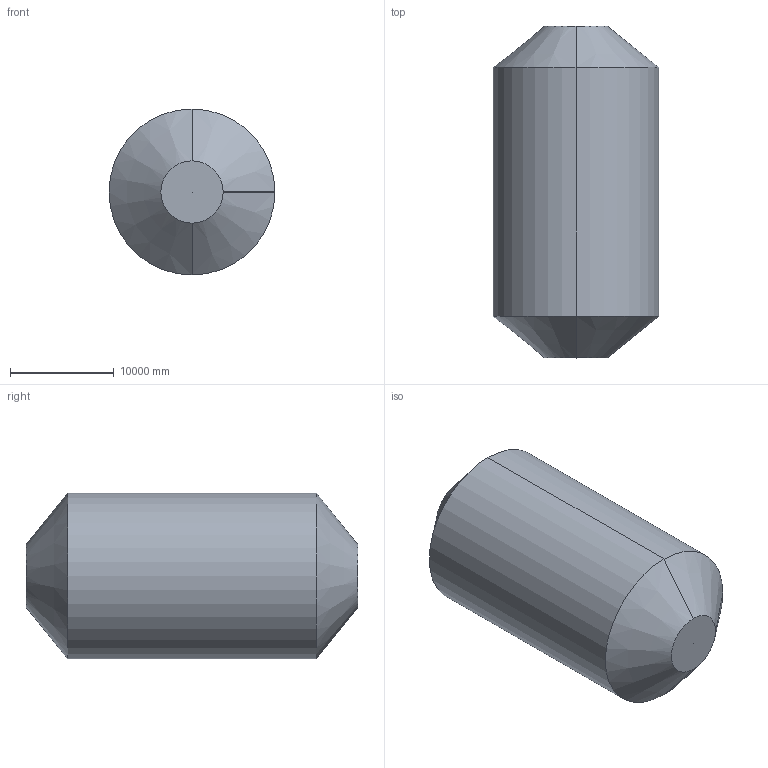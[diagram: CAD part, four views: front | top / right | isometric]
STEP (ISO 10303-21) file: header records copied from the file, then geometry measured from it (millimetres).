
FILE_DESCRIPTION (( 'STEP AP203' ), '1' );
FILE_NAME ('AP_01_Apex_Counterweight_Core.STEP', '2026-10-28T18:35:40', ( '' ), ( '' ), 'SwSTEP 2.0', 'SolidWorks 2026', '' );
FILE_SCHEMA (( 'CONFIG_CONTROL_DESIGN' ));
Length unit declared in the file: inch
Products named in the file (1): AP_01_Apex_Counterweight_Core
Bounding box: 16000 x 32000 x 16000 mm (x, y, z)
Volume: 5638111615481.3 mm3; surface area: 2177472424.1 mm2
Topology: 1 solids, 1 shells, 13 faces, 29 edges, 18 vertices
Faces by surface type: cone 6, plane 4, cylinder 3
Entity records: 442 total; most frequent: DIRECTION 69, CARTESIAN_POINT 61, ORIENTED_EDGE 58, EDGE_CURVE 29, AXIS2_PLACEMENT_3D 26, VERTEX_POINT 18, LINE 17, VECTOR 17
